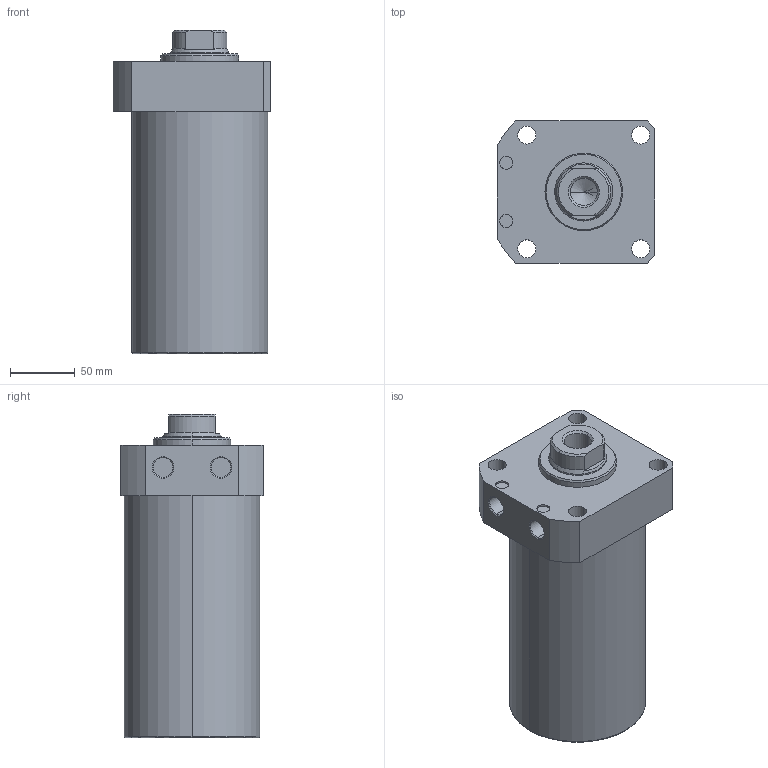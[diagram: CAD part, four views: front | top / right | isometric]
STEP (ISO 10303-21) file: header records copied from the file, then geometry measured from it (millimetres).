
FILE_DESCRIPTION (( 'STEP AP203' ), '1' );
FILE_NAME ('CLLR-105CA-140.STEP', '2019-12-18T07:20:19', ( '' ), ( '' ), 'SwSTEP 2.0', 'SolidWorks 2015', '' );
FILE_SCHEMA (( 'CONFIG_CONTROL_DESIGN' ));
Length unit declared in the file: millimetre
Products named in the file (1): CLLR-105CA-140
Bounding box: 122 x 110 x 250 mm (x, y, z)
Volume: 2116394.2 mm3; surface area: 120270.4 mm2
Topology: 1 solids, 1 shells, 65 faces, 153 edges, 96 vertices
Faces by surface type: cylinder 29, plane 19, cone 15, torus 2
Entity records: 1971 total; most frequent: DIRECTION 352, CARTESIAN_POINT 337, ORIENTED_EDGE 302, EDGE_CURVE 151, AXIS2_PLACEMENT_3D 143, VERTEX_POINT 96, EDGE_LOOP 81, CIRCLE 77
